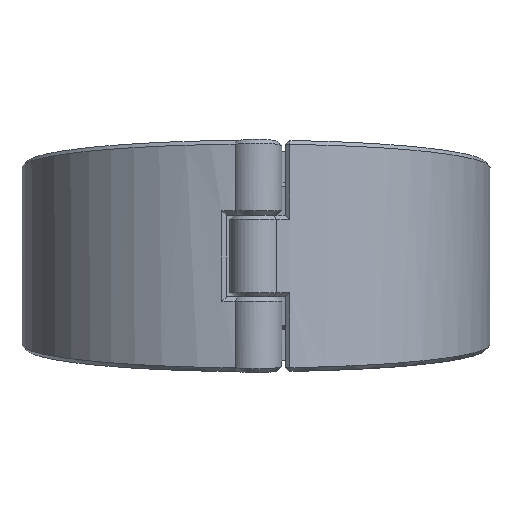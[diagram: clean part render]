
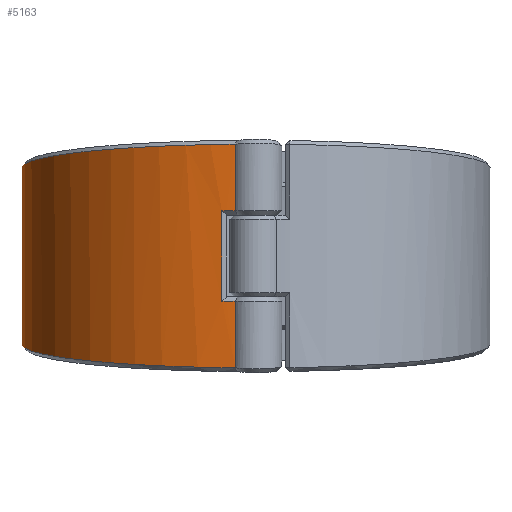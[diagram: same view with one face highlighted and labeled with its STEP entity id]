
A CAD part, front view. The second image highlights one B-rep face of the part: STEP entity #5163.
In plain terms, the highlighted cylindrical face has radius 110 mm (diameter 220 mm), a partial arc.
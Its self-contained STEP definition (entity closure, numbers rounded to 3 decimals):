
#171=CYLINDRICAL_SURFACE('',#5540,110.);
#388=FACE_OUTER_BOUND('',#730,.T.);
#730=EDGE_LOOP('',(#3521,#3522,#3523,#3524,#3525,#3526,#3527,#3528,#3529,
#3530,#3531,#3532));
#1089=B_SPLINE_CURVE_WITH_KNOTS('',3,(#7728,#7729,#7730,#7731),
 .UNSPECIFIED.,.F.,.F.,(4,4),(-0.001,0.),.UNSPECIFIED.);
#1090=B_SPLINE_CURVE_WITH_KNOTS('',3,(#7733,#7734,#7735,#7736),
 .UNSPECIFIED.,.F.,.F.,(4,4),(-3.053,-3.053),
 .UNSPECIFIED.);
#1091=B_SPLINE_CURVE_WITH_KNOTS('',3,(#7738,#7739,#7740,#7741,#7742,#7743,
#7744,#7745,#7746,#7747),.UNSPECIFIED.,.F.,.F.,(4,1,1,1,1,1,1,4),(0.317,
0.657,1.057,1.458,1.859,2.26,
2.661,3.053),.UNSPECIFIED.);
#1092=B_SPLINE_CURVE_WITH_KNOTS('',3,(#7751,#7752,#7753,#7754,#7755,#7756,
#7757,#7758,#7759,#7760),.UNSPECIFIED.,.F.,.F.,(4,1,1,1,1,1,1,4),(-3.053,
-2.661,-2.26,-1.859,-1.458,
-1.057,-0.657,-0.317),.UNSPECIFIED.);
#1093=B_SPLINE_CURVE_WITH_KNOTS('',3,(#7762,#7763,#7764,#7765),
 .UNSPECIFIED.,.F.,.F.,(4,4),(3.053,3.053),
 .UNSPECIFIED.);
#1094=B_SPLINE_CURVE_WITH_KNOTS('',3,(#7767,#7768,#7769,#7770),
 .UNSPECIFIED.,.F.,.F.,(4,4),(-0.354,-0.353),
 .UNSPECIFIED.);
#1317=LINE('',#7662,#1555);
#1323=LINE('',#7726,#1561);
#1324=LINE('',#7749,#1562);
#1325=LINE('',#7771,#1563);
#1555=VECTOR('',#6155,10.);
#1561=VECTOR('',#6201,10.);
#1562=VECTOR('',#6202,10.);
#1563=VECTOR('',#6203,10.);
#1798=CIRCLE('',#5530,110.);
#1801=CIRCLE('',#5535,110.);
#2137=VERTEX_POINT('',#7656);
#2138=VERTEX_POINT('',#7661);
#2144=VERTEX_POINT('',#7682);
#2147=VERTEX_POINT('',#7703);
#2151=VERTEX_POINT('',#7725);
#2152=VERTEX_POINT('',#7727);
#2153=VERTEX_POINT('',#7732);
#2154=VERTEX_POINT('',#7737);
#2155=VERTEX_POINT('',#7748);
#2156=VERTEX_POINT('',#7750);
#2157=VERTEX_POINT('',#7761);
#2158=VERTEX_POINT('',#7766);
#2646=EDGE_CURVE('',#2137,#2138,#1317,.T.);
#2659=EDGE_CURVE('',#2144,#2137,#1798,.T.);
#2664=EDGE_CURVE('',#2138,#2147,#1801,.T.);
#2670=EDGE_CURVE('',#2151,#2144,#1323,.T.);
#2671=EDGE_CURVE('',#2152,#2151,#1089,.T.);
#2672=EDGE_CURVE('',#2152,#2153,#1090,.T.);
#2673=EDGE_CURVE('',#2154,#2153,#1091,.T.);
#2674=EDGE_CURVE('',#2155,#2154,#1324,.T.);
#2675=EDGE_CURVE('',#2156,#2155,#1092,.T.);
#2676=EDGE_CURVE('',#2156,#2157,#1093,.T.);
#2677=EDGE_CURVE('',#2158,#2157,#1094,.T.);
#2678=EDGE_CURVE('',#2147,#2158,#1325,.T.);
#3521=ORIENTED_EDGE('',*,*,#2664,.F.);
#3522=ORIENTED_EDGE('',*,*,#2646,.F.);
#3523=ORIENTED_EDGE('',*,*,#2659,.F.);
#3524=ORIENTED_EDGE('',*,*,#2670,.F.);
#3525=ORIENTED_EDGE('',*,*,#2671,.F.);
#3526=ORIENTED_EDGE('',*,*,#2672,.T.);
#3527=ORIENTED_EDGE('',*,*,#2673,.F.);
#3528=ORIENTED_EDGE('',*,*,#2674,.F.);
#3529=ORIENTED_EDGE('',*,*,#2675,.F.);
#3530=ORIENTED_EDGE('',*,*,#2676,.T.);
#3531=ORIENTED_EDGE('',*,*,#2677,.F.);
#3532=ORIENTED_EDGE('',*,*,#2678,.F.);
#5163=ADVANCED_FACE('',(#388),#171,.T.);
#5530=AXIS2_PLACEMENT_3D('',#7698,#6177,#6178);
#5535=AXIS2_PLACEMENT_3D('',#7712,#6187,#6188);
#5540=AXIS2_PLACEMENT_3D('',#7724,#6199,#6200);
#6155=DIRECTION('',(0.,0.,-1.));
#6177=DIRECTION('center_axis',(0.,0.,-1.));
#6178=DIRECTION('ref_axis',(0.312,-0.95,0.));
#6187=DIRECTION('center_axis',(0.,0.,1.));
#6188=DIRECTION('ref_axis',(0.312,-0.95,0.));
#6199=DIRECTION('center_axis',(0.,0.,1.));
#6200=DIRECTION('ref_axis',(-0.312,0.95,0.));
#6201=DIRECTION('',(0.,0.,-1.));
#6202=DIRECTION('',(0.,0.,1.));
#6203=DIRECTION('',(0.,0.,-1.));
#7656=CARTESIAN_POINT('',(-15.981,-108.833,21.25));
#7661=CARTESIAN_POINT('',(-15.981,-108.833,-21.25));
#7662=CARTESIAN_POINT('',(-15.981,-108.833,0.));
#7682=CARTESIAN_POINT('',(-9.723,-109.569,21.25));
#7698=CARTESIAN_POINT('Origin',(0.,0.,21.25));
#7703=CARTESIAN_POINT('',(-9.723,-109.569,-21.25));
#7712=CARTESIAN_POINT('Origin',(0.,0.,-21.25));
#7724=CARTESIAN_POINT('Origin',(0.,0.,0.));
#7725=CARTESIAN_POINT('',(-9.723,-109.569,52.508));
#7726=CARTESIAN_POINT('',(-9.723,-109.569,0.));
#7727=CARTESIAN_POINT('',(-9.714,-109.57,52.515));
#7728=CARTESIAN_POINT('Ctrl Pts',(-9.714,-109.57,52.515));
#7729=CARTESIAN_POINT('Ctrl Pts',(-9.717,-109.57,52.512));
#7730=CARTESIAN_POINT('Ctrl Pts',(-9.72,-109.57,52.51));
#7731=CARTESIAN_POINT('Ctrl Pts',(-9.723,-109.569,52.508));
#7732=CARTESIAN_POINT('',(-9.723,-109.569,52.514));
#7733=CARTESIAN_POINT('Ctrl Pts',(-9.714,-109.57,52.515));
#7734=CARTESIAN_POINT('Ctrl Pts',(-9.717,-109.57,52.514));
#7735=CARTESIAN_POINT('Ctrl Pts',(-9.72,-109.57,52.514));
#7736=CARTESIAN_POINT('Ctrl Pts',(-9.723,-109.569,52.514));
#7737=CARTESIAN_POINT('',(-34.347,104.5,30.999));
#7738=CARTESIAN_POINT('Ctrl Pts',(-34.347,104.498,30.999));
#7739=CARTESIAN_POINT('Ctrl Pts',(-46.192,100.598,31.39));
#7740=CARTESIAN_POINT('Ctrl Pts',(-70.572,87.689,32.686));
#7741=CARTESIAN_POINT('Ctrl Pts',(-98.524,55.339,35.933));
#7742=CARTESIAN_POINT('Ctrl Pts',(-112.294,12.48,40.238));
#7743=CARTESIAN_POINT('Ctrl Pts',(-108.271,-32.324,44.741));
#7744=CARTESIAN_POINT('Ctrl Pts',(-87.087,-71.971,48.73));
#7745=CARTESIAN_POINT('Ctrl Pts',(-52.416,-100.016,51.552));
#7746=CARTESIAN_POINT('Ctrl Pts',(-24.016,-108.3,52.387));
#7747=CARTESIAN_POINT('Ctrl Pts',(-9.723,-109.569,52.514));
#7748=CARTESIAN_POINT('',(-34.347,104.5,-30.999));
#7749=CARTESIAN_POINT('',(-34.347,104.5,0.));
#7750=CARTESIAN_POINT('',(-9.723,-109.569,-52.514));
#7751=CARTESIAN_POINT('Ctrl Pts',(-9.723,-109.569,-52.514));
#7752=CARTESIAN_POINT('Ctrl Pts',(-24.016,-108.3,-52.387));
#7753=CARTESIAN_POINT('Ctrl Pts',(-52.41,-100.011,-51.552));
#7754=CARTESIAN_POINT('Ctrl Pts',(-87.096,-71.977,-48.73));
#7755=CARTESIAN_POINT('Ctrl Pts',(-108.259,-32.321,-44.741));
#7756=CARTESIAN_POINT('Ctrl Pts',(-112.306,12.48,-40.238));
#7757=CARTESIAN_POINT('Ctrl Pts',(-98.513,55.334,-35.933));
#7758=CARTESIAN_POINT('Ctrl Pts',(-70.577,87.693,-32.685));
#7759=CARTESIAN_POINT('Ctrl Pts',(-46.193,100.599,-31.39));
#7760=CARTESIAN_POINT('Ctrl Pts',(-34.347,104.498,-30.999));
#7761=CARTESIAN_POINT('',(-9.714,-109.57,-52.515));
#7762=CARTESIAN_POINT('Ctrl Pts',(-9.723,-109.569,-52.514));
#7763=CARTESIAN_POINT('Ctrl Pts',(-9.72,-109.57,-52.514));
#7764=CARTESIAN_POINT('Ctrl Pts',(-9.717,-109.57,-52.514));
#7765=CARTESIAN_POINT('Ctrl Pts',(-9.714,-109.57,-52.515));
#7766=CARTESIAN_POINT('',(-9.723,-109.569,-52.508));
#7767=CARTESIAN_POINT('Ctrl Pts',(-9.722,-109.569,-52.508));
#7768=CARTESIAN_POINT('Ctrl Pts',(-9.719,-109.569,-52.51));
#7769=CARTESIAN_POINT('Ctrl Pts',(-9.717,-109.57,-52.512));
#7770=CARTESIAN_POINT('Ctrl Pts',(-9.714,-109.57,-52.514));
#7771=CARTESIAN_POINT('',(-9.723,-109.569,0.));
